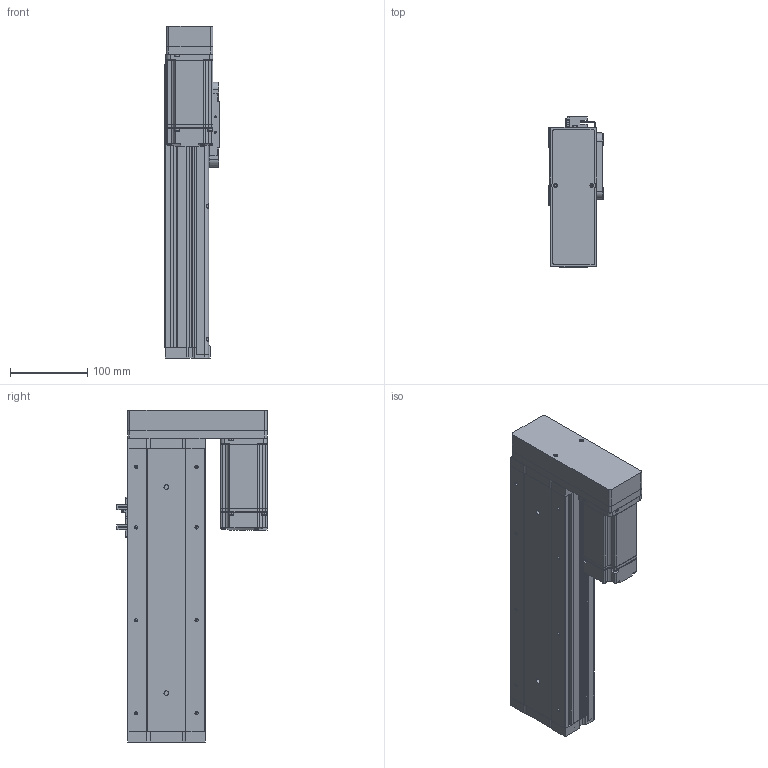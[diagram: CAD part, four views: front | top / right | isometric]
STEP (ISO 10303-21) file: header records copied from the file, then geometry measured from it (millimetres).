
FILE_DESCRIPTION (( 'STEP AP214' ), '1' );
FILE_NAME ('KSD100S-S200-MR-CR.STEP', '2019-09-03T01:02:10', ( '微软用户' ), ( '微软中国' ), 'SwSTEP 2.0', 'SolidWorks 2014', '' );
FILE_SCHEMA (( 'AUTOMOTIVE_DESIGN' ));
Length unit declared in the file: millimetre
Products named in the file (14): 悵誘欶酘衵殏; 100宽马达安装板连板左右折丝杆; U倰嫖萇EEㄜSX672; 感应片100宽全封闭; 100宽马达安装板全封闭; 100宽端板全封闭; 100宽滚珠螺姆安装板1防护罩; 100宽滚珠螺姆安装板1; 100遵裔啣揤啣; 100遵裔啣200俴最; 100遵耜啣200俴最佪裝; 100宽底板全封闭200行程丝杆; KSD100S-S200-MR-CR; MHMD042G1CA_2_03
Assembly tree (15 placements, depth 2):
  KSD100S-S200-MR-CR
    100宽底板全封闭200行程丝杆
    100遵耜啣200俴最佪裝  x2
    100遵裔啣200俴最
    100遵裔啣揤啣
    100宽滚珠螺姆安装板1
    100宽滚珠螺姆安装板1防护罩
    100宽端板全封闭
    100宽马达安装板全封闭
    感应片100宽全封闭
    U倰嫖萇EEㄜSX672  x2
    100宽马达安装板连板左右折丝杆
    悵誘欶酘衵殏
    MHMD042G1CA_2_03
Bounding box: 70 x 193.7 x 428.5 mm (x, y, z)
Volume: 1000595.1 mm3; surface area: 480437.4 mm2
Topology: 14 solids, 15 shells, 1432 faces, 3989 edges, 2564 vertices
Faces by surface type: plane 622, cylinder 615, cone 177, bspline 18
Entity records: 51408 total; most frequent: CARTESIAN_POINT 7972, DIRECTION 7345, ORIENTED_EDGE 6832, EDGE_CURVE 3488, AXIS2_PLACEMENT_3D 2597, VERTEX_POINT 2314, VECTOR 2151, LINE 2151
